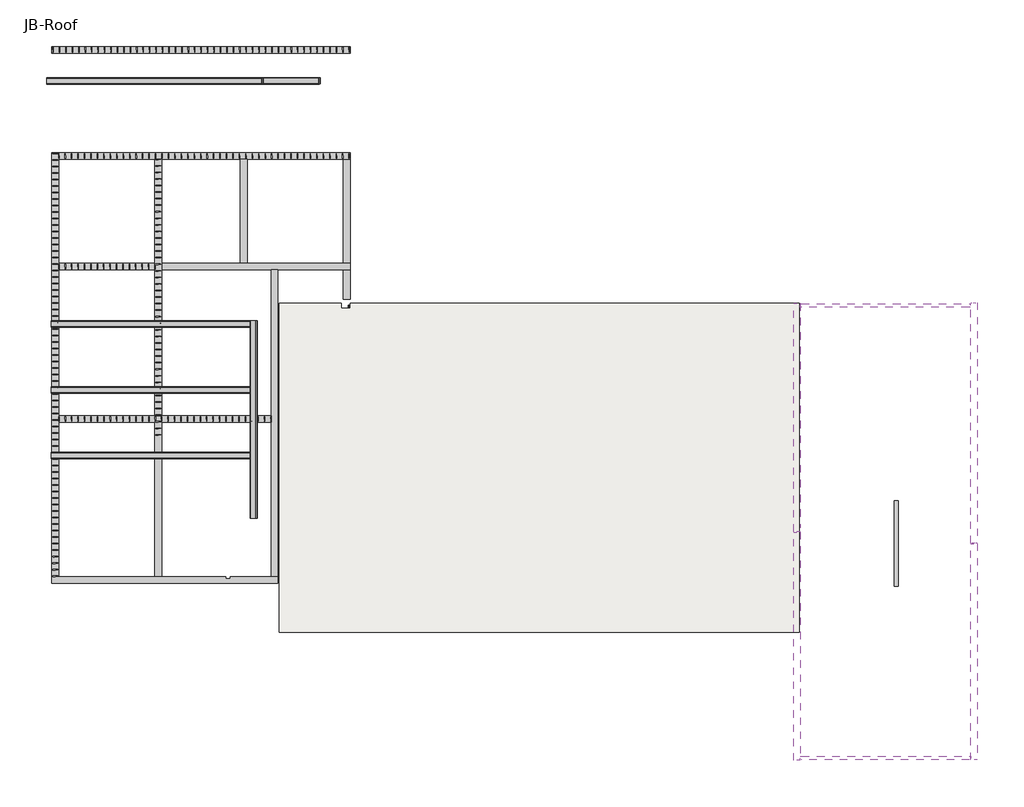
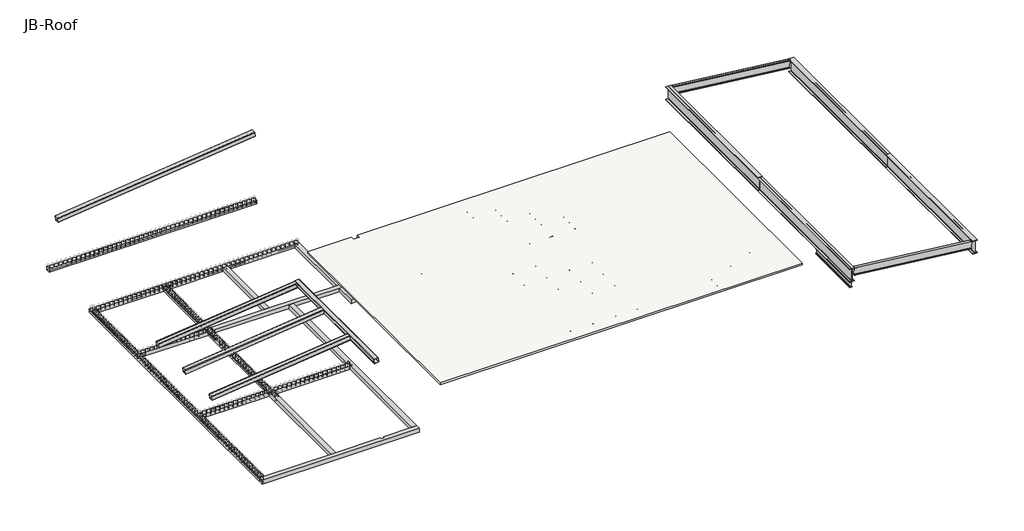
# One storey, part 1 of 3: 45 beams, 1 slab.
"""IFC4 building model written with IfcOpenShell, lengths in millimetres."""

from ifc_helpers import new_model, si_unit, frame, origin, place, context, project, spatial, polyline, outline, extrude, faceted_brep, transform, mapped, element, save
from components import hss_hollow_structural_section_hss12x12x1_2_c205e00b, hss_hollow_structural_section_hss12x12x1_2_65790d26, hss_hollow_structural_section_hss12x12x1_2_75c03b45, hss_hollow_structural_section_hss12x12x1_2_15489e63, hss_hollow_structural_section_hss12x12x1_2_070f9e11, k_series_bar_joist_rod_web_12k1_a6bee375, k_series_bar_joist_rod_web_12k1_562b93e1, k_series_bar_joist_rod_web_12k1_8968bb53, k_series_bar_joist_rod_web_22k4_82dcadde, k_series_bar_joist_rod_web_24k4_98bbd377, k_series_bar_joist_rod_web_24k4_0bbdf4ea, w_wide_flange_w14x30_17857959, w_wide_flange_w21x44_6d4e9764, w_wide_flange_w21x44_a0252540, w_wide_flange_w36x135_5b543eee, w_wide_flange_w36x135_edb61ff3, w_wide_flange_w36x135_1d218eeb, w_wide_flange_w36x135_915bd06f

model = new_model("IFC4")

# Units and contexts
model_context = context("Model", 3, world=origin())
ifc_project = project(units=[si_unit("LENGTHUNIT", "METRE", prefix="MILLI")], contexts=[model_context])

# Site, building, storey
site = spatial("IfcSite", under=ifc_project)
building = spatial("IfcBuilding", under=site)
storey = spatial("IfcBuildingStorey", under=building, Name="JB-Roof", Elevation=38468.3)

# Beams
placement = place(None, origin())
element("IfcBeam", 1, ObjectType="Concrete-Rectangular Beam : 12 x 18", at=placement, inside=storey, context=model_context, shape_type="Brep", body=[
    faceted_brep([(-20966.7454607, -5025.0304995, 33782.0), (-20560.3454607, -5025.0304995, 33782.0), (-16242.3454607, -5025.0304995, 33782.0), (-15835.9454607, -5025.0304995, 33782.0), (-10936.1763201, -5025.0304995, 33782.0), (-10529.7763201, -5025.0304995, 33782.0), (-10507.5513201, -5025.0304995, 33782.0), (-10507.5513201, -5025.0304995, 34036.0), (-20966.7454607, -5025.0304995, 34036.0), (-20966.7454607, -4720.2304995, 33782.0), (-20661.9454607, -4720.2304995, 33782.0), (-16191.5454607, -4720.2304995, 33782.0), (-15886.7454607, -4720.2304995, 33782.0), (-12913.3579607, -4720.2304995, 33782.0), (-12913.3579607, -4821.8304995, 33782.0), (-12710.1579607, -4821.8304995, 33782.0), (-12710.1579607, -4720.2304995, 33782.0), (-10812.3513201, -4720.2304995, 33782.0), (-10507.5513201, -4720.2304995, 33782.0), (-20966.7454607, -4720.2304995, 34036.0), (-20661.9454607, -4720.2304995, 34036.0), (-16191.5454607, -4720.2304995, 34036.0), (-15886.7454607, -4720.2304995, 34036.0), (-12913.3579607, -4720.2304995, 34036.0), (-10507.5513201, -4720.2304995, 34036.0), (-10812.3513201, -4720.2304995, 34036.0), (-12710.1579607, -4720.2304995, 34036.0), (-12710.1579607, -4821.8304995, 34036.0), (-12913.3579607, -4821.8304995, 34036.0)], [[[0, 1, 2, 3, 4, 5, 6, 7, 8]], [[0, 9, 10, 11, 12, 13, 14, 15, 16, 17, 18, 6, 5, 4, 3, 2, 1]], [[9, 19, 20, 21, 22, 23, 13, 12, 11, 10]], [[9, 0, 8, 19]], [[6, 18, 24, 7]], [[8, 7, 24, 25, 26, 27, 28, 23, 22, 21, 20, 19]], [[28, 14, 13, 23]], [[15, 27, 26, 16]], [[14, 28, 27, 15]], [[24, 18, 17, 16, 26, 25]]]),
])
element("IfcBeam", 2, ObjectType="Concrete-Rectangular Beam : 12 x 18", at=placement, inside=storey, context=model_context, shape_type="Brep", body=[
    faceted_brep([(-20661.9454607, 2429.8695005, 34036.0), (-20661.9454607, 2429.8695005, 33782.0), (-16191.5454607, 2429.8695005, 33782.0), (-15886.7454607, 2429.8695005, 33782.0), (-10812.3513201, 2429.8695005, 33782.0), (-10812.3513201, 2429.8695005, 34036.0), (-15886.7454607, 2429.8695005, 34036.0), (-16191.5454607, 2429.8695005, 34036.0), (-20661.9454607, 2734.6695005, 33782.0), (-16191.5454607, 2734.6695005, 33782.0), (-15886.7454607, 2734.6695005, 33782.0), (-10812.3513201, 2734.6695005, 33782.0), (-20661.9454607, 2734.6695005, 34036.0), (-16191.5454607, 2734.6695005, 34036.0), (-15886.7454607, 2734.6695005, 34036.0), (-10812.3513201, 2734.6695005, 34036.0)], [[[0, 1, 2, 3, 4, 5, 6, 7]], [[1, 8, 9, 10, 11, 4, 3, 2]], [[8, 12, 13, 14, 15, 11, 10, 9]], [[12, 0, 7, 6, 5, 15, 14, 13]], [[1, 0, 12, 8]], [[5, 4, 11, 15]]]),
])
element("IfcBeam", 3, ObjectType="Concrete-Rectangular Beam : 12 x 18", at=placement, inside=storey, context=model_context, shape_type="Brep", body=[
    faceted_brep([(-20661.9454607, -4720.2304995, 33782.0), (-20661.9454607, 2429.8695005, 33782.0), (-20661.9454607, 2734.6695005, 33782.0), (-20661.9454607, 9491.0695005, 33782.0), (-20661.9454607, 9795.8695005, 33782.0), (-20661.9454607, 14621.8695005, 33782.0), (-20661.9454607, 14926.6695005, 33782.0), (-20661.9454607, 14926.6695005, 34036.0), (-20661.9454607, 14621.8695005, 34036.0), (-20661.9454607, 9795.8695005, 34036.0), (-20661.9454607, 9491.0695005, 34036.0), (-20661.9454607, 2734.6695005, 34036.0), (-20661.9454607, 2429.8695005, 34036.0), (-20661.9454607, -4720.2304995, 34036.0), (-20966.7454607, -4720.2304995, 33782.0), (-20966.7454607, -4618.6304995, 33782.0), (-20966.7454607, 2379.0695005, 33782.0), (-20966.7454607, 2785.4695005, 33782.0), (-20966.7454607, 9491.0695005, 33782.0), (-20966.7454607, 9897.4695005, 33782.0), (-20966.7454607, 14520.2695005, 33782.0), (-20966.7454607, 14926.6695005, 33782.0), (-20966.7454607, -4720.2304995, 34036.0), (-20966.7454607, 14926.6695005, 34036.0)], [[[0, 1, 2, 3, 4, 5, 6, 7, 8, 9, 10, 11, 12, 13]], [[0, 14, 15, 16, 17, 18, 19, 20, 21, 6, 5, 4, 3, 2, 1]], [[21, 20, 19, 18, 17, 16, 15, 14, 22, 23]], [[14, 0, 13, 22]], [[13, 12, 11, 10, 9, 8, 7, 23, 22]], [[6, 21, 23, 7]]]),
])
element("IfcBeam", 4, ObjectType="Concrete-Rectangular Beam : 12 x 18", at=placement, inside=storey, context=model_context, shape_type="Brep", body=[
    faceted_brep([(-15886.7454607, 2734.6695005, 34036.0), (-15886.7454607, 2734.6695005, 33782.0), (-15886.7454607, 9491.0695005, 33782.0), (-15886.7454607, 9795.8695005, 33782.0), (-15886.7454607, 14621.8695005, 33782.0), (-15886.7454607, 14621.8695005, 34036.0), (-15886.7454607, 9795.8695005, 34036.0), (-15886.7454607, 9491.0695005, 34036.0), (-15886.7454607, 4866.6820005, 34036.0), (-15886.7454607, 4157.0695005, 34036.0), (-16191.5454607, 2734.6695005, 34036.0), (-16191.5454607, 2734.6695005, 33782.0), (-16191.5454607, 9491.0695005, 34036.0), (-16191.5454607, 9795.8695005, 34036.0), (-16191.5454607, 14621.8695005, 34036.0), (-16191.5454607, 14621.8695005, 33782.0), (-16191.5454607, 9795.8695005, 33782.0), (-16191.5454607, 9491.0695005, 33782.0)], [[[0, 1, 2, 3, 4, 5, 6, 7, 8, 9]], [[1, 0, 10, 11]], [[11, 10, 12, 13, 14, 15, 16, 17]], [[5, 4, 15, 14]], [[1, 11, 17, 16, 15, 4, 3, 2]], [[0, 9, 8, 7, 6, 5, 14, 13, 12, 10]]]),
    faceted_brep([(-15886.7454607, -4720.2304995, 33782.0), (-16191.5454607, -4720.2304995, 33782.0), (-16191.5454607, 2429.8695005, 33782.0), (-15886.7454607, 2429.8695005, 33782.0), (-16191.5454607, 2429.8695005, 34036.0), (-16191.5454607, -4720.2304995, 34036.0), (-15886.7454607, -4720.2304995, 34036.0), (-15886.7454607, 2429.8695005, 34036.0)], [[[0, 1, 2, 3]], [[4, 2, 1, 5]], [[1, 0, 6, 5]], [[6, 7, 4, 5]], [[7, 3, 2, 4]], [[3, 7, 6, 0]]]),
])
element("IfcBeam", 5, ObjectType="Concrete-Rectangular Beam : 12 x 18", at=placement, inside=storey, context=model_context, shape_type="Brep", body=[
    faceted_brep([(-10507.5513201, 8132.1695005, 34036.0), (-10507.5513201, -4720.2304995, 34036.0), (-10507.5513201, -4720.2304995, 33782.0), (-10507.5513201, 9491.0695005, 33782.0), (-10507.5513201, 9491.0695005, 34036.0), (-10812.3513201, -4720.2304995, 33782.0), (-10812.3513201, 2429.8695005, 33782.0), (-10812.3513201, 2734.6695005, 33782.0), (-10812.3513201, 9491.0695005, 33782.0), (-10812.3513201, -4720.2304995, 34036.0), (-10812.3513201, 2429.8695005, 34036.0), (-10812.3513201, 2734.6695005, 34036.0), (-10812.3513201, 9491.0695005, 34036.0)], [[[0, 1, 2, 3, 4]], [[2, 5, 6, 7, 8, 3]], [[5, 9, 10, 11, 12, 8, 7, 6]], [[5, 2, 1, 9]], [[1, 0, 4, 12, 11, 10, 9]], [[4, 3, 8, 12]]]),
])
element("IfcBeam", 6, ObjectType="Concrete-Rectangular Beam : 12 x 18", at=placement, inside=storey, context=model_context, shape_type="Brep", body=[
    faceted_brep([(-20661.9454607, 9491.0695005, 34036.0), (-20661.9454607, 9491.0695005, 33782.0), (-20560.3454607, 9491.0695005, 33782.0), (-16242.3454607, 9491.0695005, 33782.0), (-16191.5454607, 9491.0695005, 33782.0), (-16191.5454607, 9491.0695005, 34036.0), (-20661.9454607, 9795.8695005, 33782.0), (-16191.5454607, 9795.8695005, 33782.0), (-20661.9454607, 9795.8695005, 34036.0), (-16191.5454607, 9795.8695005, 34036.0)], [[[0, 1, 2, 3, 4, 5]], [[1, 6, 7, 4, 3, 2]], [[6, 8, 9, 7]], [[6, 1, 0, 8]], [[5, 4, 7, 9]], [[8, 0, 5, 9]]]),
    faceted_brep([(-7149.1454607, 9491.0695005, 33782.0), (-7149.1454607, 9491.0695005, 34036.0), (-7453.9454607, 9491.0695005, 34036.0), (-10507.5513201, 9491.0695005, 34036.0), (-10812.3513201, 9491.0695005, 34036.0), (-15886.7454607, 9491.0695005, 34036.0), (-15886.7454607, 9491.0695005, 33782.0), (-15835.9454607, 9491.0695005, 33782.0), (-12279.9454607, 9491.0695005, 33782.0), (-11873.5454607, 9491.0695005, 33782.0), (-10812.3513201, 9491.0695005, 33782.0), (-10507.5513201, 9491.0695005, 33782.0), (-7555.5454607, 9491.0695005, 33782.0), (-7453.9454607, 9491.0695005, 33782.0), (-7149.1454607, 9795.8695005, 34036.0), (-7149.1454607, 9795.8695005, 33782.0), (-7453.9454607, 9795.8695005, 33782.0), (-11924.3454607, 9795.8695005, 33782.0), (-12229.1454607, 9795.8695005, 33782.0), (-15886.7454607, 9795.8695005, 33782.0), (-15886.7454607, 9795.8695005, 34036.0), (-12229.1454607, 9795.8695005, 34036.0), (-11924.3454607, 9795.8695005, 34036.0), (-7453.9454607, 9795.8695005, 34036.0)], [[[0, 1, 2, 3, 4, 5, 6, 7, 8, 9, 10, 11, 12, 13]], [[14, 15, 16, 17, 18, 19, 20, 21, 22, 23]], [[15, 0, 13, 12, 11, 10, 9, 8, 7, 6, 19, 18, 17, 16]], [[0, 15, 14, 1]], [[1, 14, 23, 22, 21, 20, 5, 4, 3, 2]], [[6, 5, 20, 19]]]),
])
element("IfcBeam", 7, ObjectType="Concrete-Rectangular Beam : 12 x 18", at=placement, inside=storey, context=model_context, shape_type="Brep", body=[
    faceted_brep([(-20661.9454607, 14621.8695005, 33782.0), (-16191.5454607, 14621.8695005, 33782.0), (-15886.7454607, 14621.8695005, 33782.0), (-12229.1454607, 14621.8695005, 33782.0), (-11924.3454607, 14621.8695005, 33782.0), (-7453.9454607, 14621.8695005, 33782.0), (-7149.1454607, 14621.8695005, 33782.0), (-7149.1454607, 14621.8695005, 34036.0), (-7453.9454607, 14621.8695005, 34036.0), (-11924.3454607, 14621.8695005, 34036.0), (-12229.1454607, 14621.8695005, 34036.0), (-15886.7454607, 14621.8695005, 34036.0), (-16191.5454607, 14621.8695005, 34036.0), (-20661.9454607, 14621.8695005, 34036.0), (-20661.9454607, 14926.6695005, 33782.0), (-20560.3454607, 14926.6695005, 33782.0), (-16242.3454607, 14926.6695005, 33782.0), (-15835.9454607, 14926.6695005, 33782.0), (-12279.9454607, 14926.6695005, 33782.0), (-11873.5454607, 14926.6695005, 33782.0), (-7555.5454607, 14926.6695005, 33782.0), (-7149.1454607, 14926.6695005, 33782.0), (-20661.9454607, 14926.6695005, 34036.0), (-7149.1454607, 14926.6695005, 34036.0)], [[[0, 1, 2, 3, 4, 5, 6, 7, 8, 9, 10, 11, 12, 13]], [[0, 14, 15, 16, 17, 18, 19, 20, 21, 6, 5, 4, 3, 2, 1]], [[21, 20, 19, 18, 17, 16, 15, 14, 22, 23]], [[14, 0, 13, 22]], [[13, 12, 11, 10, 9, 8, 7, 23, 22]], [[6, 21, 23, 7]]]),
])
element("IfcBeam", 8, ObjectType="Concrete-Rectangular Beam : 12 x 18", at=placement, inside=storey, context=model_context, shape_type="SweptSolid", body=[
    extrude(outline(polyline([(-11924.3454607, 9795.8695005), (-12229.1454607, 9795.8695005), (-12229.1454607, 14621.8695005), (-11924.3454607, 14621.8695005), (-11924.3454607, 9795.8695005)])), frame((0.0, 0.0, 33782.0), z_axis=(0.0, 0.0, 1.0), x_axis=(1.0, 0.0, 0.0)), (0.0, 0.0, 1.0), 254.0),
])
element("IfcBeam", 9, ObjectType="Concrete-Rectangular Beam : 12 x 18", at=placement, inside=storey, context=model_context, shape_type="Brep", body=[
    faceted_brep([(-7453.9454607, 14621.8695005, 33782.0), (-7453.9454607, 9795.8695005, 33782.0), (-7453.9454607, 9795.8695005, 34036.0), (-7453.9454607, 14621.8695005, 34036.0), (-7149.1454607, 9795.8695005, 33782.0), (-7149.1454607, 14621.8695005, 33782.0), (-7149.1454607, 14520.2695005, 33782.0), (-7149.1454607, 9897.4695005, 33782.0), (-7149.1454607, 14621.8695005, 34036.0), (-7149.1454607, 9795.8695005, 34036.0)], [[[0, 1, 2, 3]], [[4, 1, 0, 5, 6, 7]], [[4, 7, 6, 5, 8, 9]], [[1, 4, 9, 2]], [[5, 0, 3, 8]], [[3, 2, 9, 8]]]),
])
element("IfcBeam", 10, ObjectType="Concrete-Rectangular Beam : 12 x 18", at=placement, inside=storey, context=model_context, shape_type="SweptSolid", body=[
    extrude(outline(polyline([(-7149.1454607, 19847.9195005), (-7149.1454607, 19543.1195005), (-20966.7454607, 19543.1195005), (-20966.7454607, 19847.9195005), (-7149.1454607, 19847.9195005)])), frame((0.0, 0.0, 33782.0), z_axis=(0.0, 0.0, 1.0), x_axis=(1.0, 0.0, 0.0)), (0.0, 0.0, 1.0), 254.0),
])
element("IfcBeam", 11, ObjectType="Concrete-Rectangular Beam : 12 x 18", at=placement, inside=storey, context=model_context, shape_type="SweptSolid", body=[
    extrude(outline(polyline([(-7453.9454607, 8132.1695005), (-7453.9454607, 9491.0695005), (-7149.1454607, 9491.0695005), (-7149.1454607, 8132.1695005), (-7453.9454607, 8132.1695005)])), frame((0.0, 0.0, 33782.0), z_axis=(0.0, 0.0, 1.0), x_axis=(1.0, 0.0, 0.0)), (0.0, 0.0, 1.0), 254.0),
])
hss_hollow_structural_section_hss12x12x1_2_shape = hss_hollow_structural_section_hss12x12x1_2_c205e00b(model_context)
element("IfcBeam", 12, ObjectType="HSS-Hollow Structural Section : HSS12X12X1/2", at=placement, inside=storey, context=model_context, shape_type="MappedRepresentation", body=[
    mapped(hss_hollow_structural_section_hss12x12x1_2_shape, transform((-11619.5622499, 2480.6695005, 37366.8520628), x_axis=(0.0, -1.0, 0.0), y_axis=(0.9938030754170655, 0.0, 0.11115505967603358), z_axis=(-0.11115505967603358, 0.0, 0.9938030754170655))),
])
hss_hollow_structural_section_hss12x12x1_2_2_shape = hss_hollow_structural_section_hss12x12x1_2_65790d26(model_context)
element("IfcBeam", 13, ObjectType="HSS-Hollow Structural Section : HSS12X12X1/2", at=placement, inside=storey, context=model_context, shape_type="MappedRepresentation", body=[
    mapped(hss_hollow_structural_section_hss12x12x1_2_2_shape, transform((-14730.32539, 18252.7995005, 39127.1188846), x_axis=(-0.9938030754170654, 0.0, -0.11115505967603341), y_axis=(0.0, -1.0, 0.0), z_axis=(-0.11115505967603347, 0.0, 0.9938030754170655))),
])
hss_hollow_structural_section_hss12x12x1_2_3_shape = hss_hollow_structural_section_hss12x12x1_2_75c03b45(model_context)
element("IfcBeam", 14, ObjectType="HSS-Hollow Structural Section : HSS12X12X1/2", at=placement, inside=storey, context=model_context, shape_type="MappedRepresentation", body=[
    mapped(hss_hollow_structural_section_hss12x12x1_2_3_shape, transform((-16306.6763225, 880.4695005, 36842.6069107), x_axis=(0.9938030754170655, 0.0, 0.11115505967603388), y_axis=(0.0, 1.0000000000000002, 0.0), z_axis=(-0.11115505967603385, 0.0, 0.9938030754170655))),
])
hss_hollow_structural_section_hss12x12x1_2_4_shape = hss_hollow_structural_section_hss12x12x1_2_15489e63(model_context)
element("IfcBeam", 15, ObjectType="HSS-Hollow Structural Section : HSS12X12X1/2", at=placement, inside=storey, context=model_context, shape_type="MappedRepresentation", body=[
    mapped(hss_hollow_structural_section_hss12x12x1_2_4_shape, transform((-16306.9056735, 6976.4695005, 36842.5812582), x_axis=(0.9938030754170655, 0.0, 0.1111550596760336), y_axis=(0.0, 1.0000000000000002, 0.0), z_axis=(-0.1111550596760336, 0.0, 0.9938030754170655))),
])
hss_hollow_structural_section_hss12x12x1_2_5_shape = hss_hollow_structural_section_hss12x12x1_2_070f9e11(model_context)
element("IfcBeam", 16, ObjectType="HSS-Hollow Structural Section : HSS12X12X1/2", at=placement, inside=storey, context=model_context, shape_type="MappedRepresentation", body=[
    mapped(hss_hollow_structural_section_hss12x12x1_2_5_shape, transform((-16306.6771812, 3928.4695005, 36842.6068146), x_axis=(0.9938030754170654, 0.0, 0.11115505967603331), y_axis=(0.0, 1.0, 0.0), z_axis=(-0.11115505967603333, 0.0, 0.9938030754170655))),
])
k_series_bar_joist_rod_web_12k1_shape = k_series_bar_joist_rod_web_12k1_a6bee375(model_context)
element("IfcBeam", 17, ObjectType="K-Series Bar Joist-Rod Web : 12K1", at=placement, inside=storey, context=model_context, shape_type="MappedRepresentation", body=[
    mapped(k_series_bar_joist_rod_web_12k1_shape, transform((4185.6045393, 4984.1570005, 38315.9), x_axis=(0.0, -1.0, 0.0), y_axis=(1.0, 0.0, 0.0), z_axis=(0.0, 0.0, 1.0))),
])
element("IfcBeam", 18, ObjectType="K-Series Bar Joist-Rod Web : 12K1", at=placement, inside=storey, context=model_context, shape_type="MappedRepresentation", body=[
    mapped(k_series_bar_joist_rod_web_12k1_shape, transform((2661.6045393, 4984.1570005, 38315.9), x_axis=(0.0, -1.0, 0.0), y_axis=(1.0, 0.0, 0.0), z_axis=(0.0, 0.0, 1.0))),
])
element("IfcBeam", 19, ObjectType="K-Series Bar Joist-Rod Web : 12K1", at=placement, inside=storey, context=model_context, shape_type="MappedRepresentation", body=[
    mapped(k_series_bar_joist_rod_web_12k1_shape, transform((1137.6045393, 4984.1570005, 38315.9), x_axis=(0.0, -1.0, 0.0), y_axis=(1.0, 0.0, 0.0), z_axis=(0.0, 0.0, 1.0))),
])
element("IfcBeam", 20, ObjectType="K-Series Bar Joist-Rod Web : 12K1", at=placement, inside=storey, context=model_context, shape_type="MappedRepresentation", body=[
    mapped(k_series_bar_joist_rod_web_12k1_shape, transform((-386.3954607, 4984.1570005, 38315.9), x_axis=(0.0, -1.0, 0.0), y_axis=(1.0, 0.0, 0.0), z_axis=(0.0, 0.0, 1.0))),
])
k_series_bar_joist_rod_web_12k1_2_shape = k_series_bar_joist_rod_web_12k1_562b93e1(model_context)
element("IfcBeam", 21, ObjectType="K-Series Bar Joist-Rod Web : 12K1", at=placement, inside=storey, context=model_context, shape_type="MappedRepresentation", body=[
    mapped(k_series_bar_joist_rod_web_12k1_2_shape, transform((11679.7951643, -4439.2429995, 38315.9), x_axis=(0.0, -1.0, 0.0), y_axis=(1.0, 0.0, 0.0), z_axis=(0.0, 0.0, 1.0))),
])
element("IfcBeam", 22, ObjectType="K-Series Bar Joist-Rod Web : 12K1", at=placement, inside=storey, context=model_context, shape_type="MappedRepresentation", body=[
    mapped(k_series_bar_joist_rod_web_12k1_2_shape, transform((10061.7357893, -4439.2429995, 38315.9), x_axis=(0.0, -1.0, 0.0), y_axis=(1.0, 0.0, 0.0), z_axis=(0.0, 0.0, 1.0))),
])
element("IfcBeam", 23, ObjectType="K-Series Bar Joist-Rod Web : 12K1", at=placement, inside=storey, context=model_context, shape_type="MappedRepresentation", body=[
    mapped(k_series_bar_joist_rod_web_12k1_2_shape, transform((8443.6764143, -4439.2429995, 38315.9), x_axis=(0.0, -1.0, 0.0), y_axis=(1.0, 0.0, 0.0), z_axis=(0.0, 0.0, 1.0))),
])
k_series_bar_joist_rod_web_12k1_3_shape = k_series_bar_joist_rod_web_12k1_8968bb53(model_context)
element("IfcBeam", 24, ObjectType="K-Series Bar Joist-Rod Web : 12K1", at=placement, inside=storey, context=model_context, shape_type="MappedRepresentation", body=[
    mapped(k_series_bar_joist_rod_web_12k1_3_shape, transform((-8753.9884159, 5212.7570005, 38315.9), x_axis=(0.010666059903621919, 0.9999431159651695, 0.0), y_axis=(-0.9999431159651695, 0.010666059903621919, 0.0), z_axis=(0.0, 0.0, 1.0))),
])
element("IfcBeam", 25, ObjectType="K-Series Bar Joist-Rod Web : 12K1", at=placement, inside=storey, context=model_context, shape_type="MappedRepresentation", body=[
    mapped(k_series_bar_joist_rod_web_12k1_3_shape, transform((-5707.8939216, 5212.7570005, 38315.9), x_axis=(0.010666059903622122, 0.9999431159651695, 0.0), y_axis=(-0.9999431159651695, 0.010666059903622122, 0.0), z_axis=(0.0, 0.0, 1.0))),
])
element("IfcBeam", 26, ObjectType="K-Series Bar Joist-Rod Web : 12K1", at=placement, inside=storey, context=model_context, shape_type="MappedRepresentation", body=[
    mapped(k_series_bar_joist_rod_web_12k1_3_shape, transform((-4184.8466745, 5212.7570005, 38315.9), x_axis=(0.010666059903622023, 0.9999431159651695, 0.0), y_axis=(-0.9999431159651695, 0.010666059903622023, 0.0), z_axis=(0.0, 0.0, 1.0))),
])
element("IfcBeam", 27, ObjectType="K-Series Bar Joist-Rod Web : 12K1", at=placement, inside=storey, context=model_context, shape_type="MappedRepresentation", body=[
    mapped(k_series_bar_joist_rod_web_12k1_3_shape, transform((-7230.9411688, 5212.7570005, 38315.9), x_axis=(0.010666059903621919, 0.9999431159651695, 0.0), y_axis=(-0.9999431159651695, 0.010666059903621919, 0.0), z_axis=(0.0, 0.0, 1.0))),
])
k_series_bar_joist_rod_web_22k4_shape = k_series_bar_joist_rod_web_22k4_82dcadde(model_context)
element("IfcBeam", 28, ObjectType="K-Series Bar Joist-Rod Web : 22K4", at=placement, inside=storey, context=model_context, shape_type="MappedRepresentation", body=[
    mapped(k_series_bar_joist_rod_web_22k4_shape, transform((-8799.8279607, -2186.2515659, 38188.9), x_axis=(0.0, -1.0, 0.0), y_axis=(1.0, 0.0, 0.0), z_axis=(0.0, 0.0, 1.0))),
])
element("IfcBeam", 29, ObjectType="K-Series Bar Joist-Rod Web : 22K4", at=placement, inside=storey, context=model_context, shape_type="MappedRepresentation", body=[
    mapped(k_series_bar_joist_rod_web_22k4_shape, transform((-7272.3354607, -2187.3664501, 38188.9), x_axis=(0.0, -1.0, 0.0), y_axis=(1.0, 0.0, 0.0), z_axis=(0.0, 0.0, 1.0))),
])
element("IfcBeam", 30, ObjectType="K-Series Bar Joist-Rod Web : 22K4", at=placement, inside=storey, context=model_context, shape_type="MappedRepresentation", body=[
    mapped(k_series_bar_joist_rod_web_22k4_shape, transform((-5744.8429607, -2188.4813342, 38188.9), x_axis=(0.0, -1.0, 0.0), y_axis=(1.0, 0.0, 0.0), z_axis=(0.0, 0.0, 1.0))),
])
element("IfcBeam", 31, ObjectType="K-Series Bar Joist-Rod Web : 22K4", at=placement, inside=storey, context=model_context, shape_type="MappedRepresentation", body=[
    mapped(k_series_bar_joist_rod_web_22k4_shape, transform((-4217.3504607, -2189.5962184, 38188.9), x_axis=(0.0, -1.0, 0.0), y_axis=(1.0, 0.0, 0.0), z_axis=(0.0, 0.0, 1.0))),
])
k_series_bar_joist_rod_web_24k4_shape = k_series_bar_joist_rod_web_24k4_98bbd377(model_context)
element("IfcBeam", 32, ObjectType="K-Series Bar Joist-Rod Web : 24K4", at=placement, inside=storey, context=model_context, shape_type="MappedRepresentation", body=[
    mapped(k_series_bar_joist_rod_web_24k4_shape, transform((-1192.8454607, -2408.8304995, 38163.5), x_axis=(0.0, 1.0, 0.0), y_axis=(-1.0, 0.0, 0.0), z_axis=(0.0, 0.0, 1.0))),
])
element("IfcBeam", 33, ObjectType="K-Series Bar Joist-Rod Web : 24K4", at=placement, inside=storey, context=model_context, shape_type="MappedRepresentation", body=[
    mapped(k_series_bar_joist_rod_web_24k4_shape, transform((304.1670393, -2408.8304995, 38163.5), x_axis=(0.0, 1.0, 0.0), y_axis=(-1.0, 0.0, 0.0), z_axis=(0.0, 0.0, 1.0))),
])
element("IfcBeam", 34, ObjectType="K-Series Bar Joist-Rod Web : 24K4", at=placement, inside=storey, context=model_context, shape_type="MappedRepresentation", body=[
    mapped(k_series_bar_joist_rod_web_24k4_shape, transform((1801.1795393, -2408.8304995, 38163.5), x_axis=(0.0, 1.0, 0.0), y_axis=(-1.0, 0.0, 0.0), z_axis=(0.0, 0.0, 1.0))),
])
element("IfcBeam", 35, ObjectType="K-Series Bar Joist-Rod Web : 24K4", at=placement, inside=storey, context=model_context, shape_type="MappedRepresentation", body=[
    mapped(k_series_bar_joist_rod_web_24k4_shape, transform((3298.1920393, -2408.8304995, 38163.5), x_axis=(0.0, 1.0, 0.0), y_axis=(-1.0, 0.0, 0.0), z_axis=(0.0, 0.0, 1.0))),
])
k_series_bar_joist_rod_web_24k4_2_shape = k_series_bar_joist_rod_web_24k4_0bbdf4ea(model_context)
element("IfcBeam", 36, ObjectType="K-Series Bar Joist-Rod Web : 24K4", at=placement, inside=storey, context=model_context, shape_type="MappedRepresentation", body=[
    mapped(k_series_bar_joist_rod_web_24k4_2_shape, transform((8511.1451643, 2953.7445005, 38163.5), x_axis=(0.0, 1.0, 0.0), y_axis=(-1.0, 0.0, 0.0), z_axis=(0.0, 0.0, 1.0))),
])
element("IfcBeam", 37, ObjectType="K-Series Bar Joist-Rod Web : 24K4", at=placement, inside=storey, context=model_context, shape_type="MappedRepresentation", body=[
    mapped(k_series_bar_joist_rod_web_24k4_2_shape, transform((10196.6732893, 2953.7445005, 38163.5), x_axis=(0.0, 1.0, 0.0), y_axis=(-1.0, 0.0, 0.0), z_axis=(0.0, 0.0, 1.0))),
])
element("IfcBeam", 38, ObjectType="K-Series Bar Joist-Rod Web : 24K4", at=placement, inside=storey, context=model_context, shape_type="MappedRepresentation", body=[
    mapped(k_series_bar_joist_rod_web_24k4_2_shape, transform((11882.2014143, 2953.7445005, 38163.5), x_axis=(0.0, 1.0, 0.0), y_axis=(-1.0, 0.0, 0.0), z_axis=(0.0, 0.0, 1.0))),
])
w_wide_flange_w14x30_shape = w_wide_flange_w14x30_17857959(model_context)
element("IfcBeam", 39, ObjectType="W-Wide Flange : W14X30", at=placement, inside=storey, context=model_context, shape_type="MappedRepresentation", body=[
    mapped(w_wide_flange_w14x30_shape, transform((18172.4717268, -3175.5929995, 34203.1339844), x_axis=(0.0, -1.0, 0.0), y_axis=(1.0, 0.0, 0.0), z_axis=(0.0, 0.0, 1.0))),
])
w_wide_flange_w21x44_shape = w_wide_flange_w21x44_6d4e9764(model_context)
element("IfcBeam", 40, ObjectType="W-Wide Flange : W21X44", at=placement, inside=storey, context=model_context, shape_type="MappedRepresentation", body=[
    mapped(w_wide_flange_w21x44_shape, transform((17645.9365475, -13140.3801089, 41130.1521404), x_axis=(0.993803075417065, 0.0, -0.11115505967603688), y_axis=(0.0, 1.0, 0.0), z_axis=(0.11115505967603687, 0.0, 0.9938030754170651))),
])
w_wide_flange_w21x44_2_shape = w_wide_flange_w21x44_a0252540(model_context)
element("IfcBeam", 41, ObjectType="W-Wide Flange : W21X44", at=placement, inside=storey, context=model_context, shape_type="MappedRepresentation", body=[
    mapped(w_wide_flange_w21x44_2_shape, transform((17638.6854017, 7843.2445005, 41130.9631679), x_axis=(0.9938030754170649, 0.0, -0.11115505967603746), y_axis=(0.0, 1.0, 0.0), z_axis=(0.1111550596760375, 0.0, 0.993803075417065))),
])
w_wide_flange_w36x135_shape = w_wide_flange_w36x135_5b543eee(model_context)
element("IfcBeam", 42, ObjectType="W-Wide Flange : W36X135", at=placement, inside=storey, context=model_context, shape_type="MappedRepresentation", body=[
    mapped(w_wide_flange_w36x135_shape, transform((13565.7883392, 2597.3376982, 41398.9185367), x_axis=(-1.2852700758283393e-05, -0.9999999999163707, 1.4375511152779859e-06), y_axis=(0.9999999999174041, -1.2852700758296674e-05, 0.0), z_axis=(1.8476414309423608e-11, 1.4375511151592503e-06, 0.9999999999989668))),
])
w_wide_flange_w36x135_2_shape = w_wide_flange_w36x135_edb61ff3(model_context)
element("IfcBeam", 43, ObjectType="W-Wide Flange : W36X135", at=placement, inside=storey, context=model_context, shape_type="MappedRepresentation", body=[
    mapped(w_wide_flange_w36x135_2_shape, transform((13565.6534911, -7894.4746065, 41398.9336192), x_axis=(-1.2852700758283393e-05, -0.9999999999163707, 1.4375511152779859e-06), y_axis=(0.999999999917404, -1.2852700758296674e-05, 0.0), z_axis=(1.8476414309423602e-11, 1.4375511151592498e-06, 0.9999999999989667))),
])
w_wide_flange_w36x135_3_shape = w_wide_flange_w36x135_1d218eeb(model_context)
element("IfcBeam", 44, ObjectType="W-Wide Flange : W36X135", at=placement, inside=storey, context=model_context, shape_type="MappedRepresentation", body=[
    mapped(w_wide_flange_w36x135_3_shape, transform((21769.9581474, 2329.8487323, 40481.2971213), x_axis=(0.0, -1.0, 0.0), y_axis=(1.0, 0.0, 0.0), z_axis=(0.0, 0.0, 1.0))),
])
w_wide_flange_w36x135_4_shape = w_wide_flange_w36x135_915bd06f(model_context)
element("IfcBeam", 45, ObjectType="W-Wide Flange : W36X135", at=placement, inside=storey, context=model_context, shape_type="MappedRepresentation", body=[
    mapped(w_wide_flange_w36x135_4_shape, transform((21777.34403, -8161.8885485, 40480.4710176), x_axis=(0.0014836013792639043, -0.9999988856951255, -0.00016593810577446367), y_axis=(0.9999988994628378, 0.0014836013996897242, 0.0), z_axis=(2.461860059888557e-07, -0.00016593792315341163, 0.9999999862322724))),
])

# Slab
element("IfcSlab", 46, ObjectType="ROOF - 2\" Metal Deck w 3\" Rigid Insulation", at=placement, inside=storey, context=model_context, shape_type="SweptSolid", body=[
    extrude(outline(polyline([(13669.3295393, 7944.8445005), (13669.3295393, -7314.2054995), (-10428.9204607, -7314.2054995), (-10428.9204607, 7944.8445005), (-7555.5454607, 7944.8445005), (-7555.5454607, 7725.7695005), (-7149.1454607, 7725.7695005), (-7149.1454607, 7944.8445005), (13669.3295393, 7944.8445005)])), frame((0.0, 0.0, 38468.3), z_axis=(0.0, 0.0, 1.0), x_axis=(1.0, 0.0, 0.0)), (0.0, 0.0, 1.0), 127.0),
])

save(model, "model.ifc")
